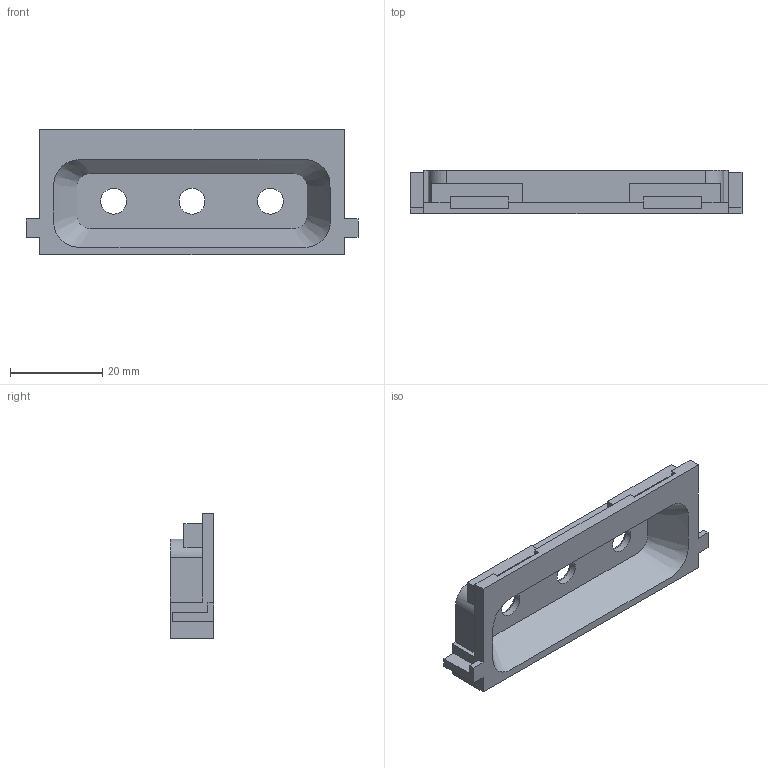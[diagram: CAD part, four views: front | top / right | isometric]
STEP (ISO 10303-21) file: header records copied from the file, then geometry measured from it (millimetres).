
FILE_DESCRIPTION(/* description */ (''),/* implementation_level */ '2;1');
FILE_NAME(/* name */ 'probe-fascia.step',/* time_stamp */ '2026-09-11T15:42:11-07:00',/* author */ (''),/* organization */ (''),/* preprocessor_version */ 'ST-DEVELOPER v20.1',/* originating_system */ 'Autodesk Translation Framework v15.8.0.0',/* authorisation */ '');
FILE_SCHEMA (('AUTOMOTIVE_DESIGN { 1 0 10303 214 3 1 1 }'));
Length unit declared in the file: centimetre
Products named in the file (1): 04 Sliding probe fascia
Bounding box: 72 x 9.5 x 27.3 mm (x, y, z)
Volume: 8700.5 mm3; surface area: 6375.7 mm2
Topology: 1 solids, 1 shells, 62 faces, 168 edges, 111 vertices
Faces by surface type: plane 51, cylinder 7, cone 3, bspline 1
Full cylindrical faces by diameter (mm): 5.6 x3
Entity records: 2252 total; most frequent: CARTESIAN_POINT 622, ORIENTED_EDGE 336, DIRECTION 309, EDGE_CURVE 168, LINE 147, VECTOR 147, VERTEX_POINT 111, AXIS2_PLACEMENT_3D 81
